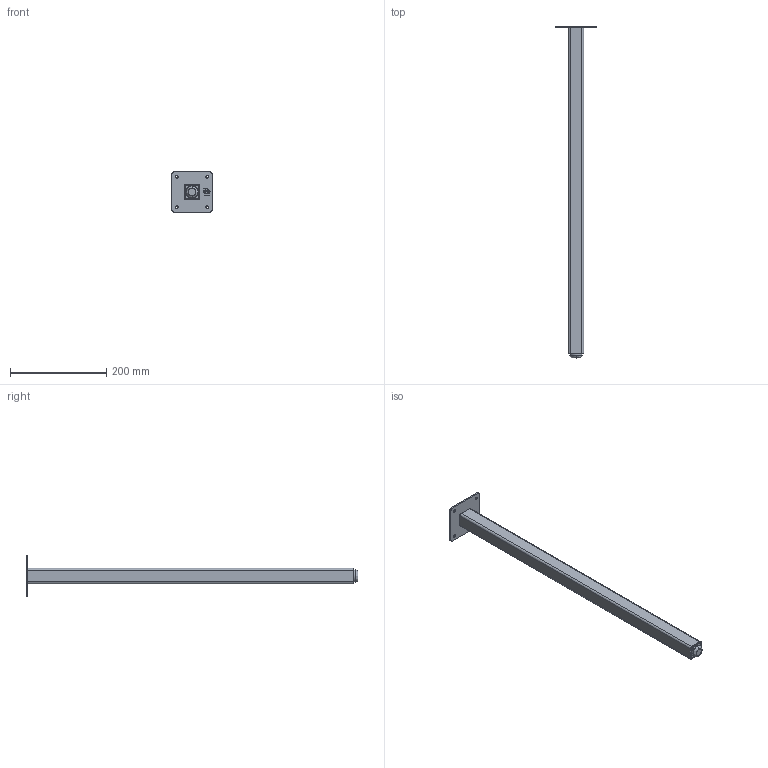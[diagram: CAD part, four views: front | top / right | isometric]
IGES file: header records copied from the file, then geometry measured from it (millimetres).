
Start section: SolidWorks IGES file using analytic representation for surfaces
Bounding box: 84 x 690 x 84 mm (x, y, z)
Surface area: 174226.9 mm2 (no closed solid volume)
Topology: 0 solids, 0 shells, 185 faces, 2509 edges, 2509 vertices
Faces by surface type: bspline 97, revolution 88
